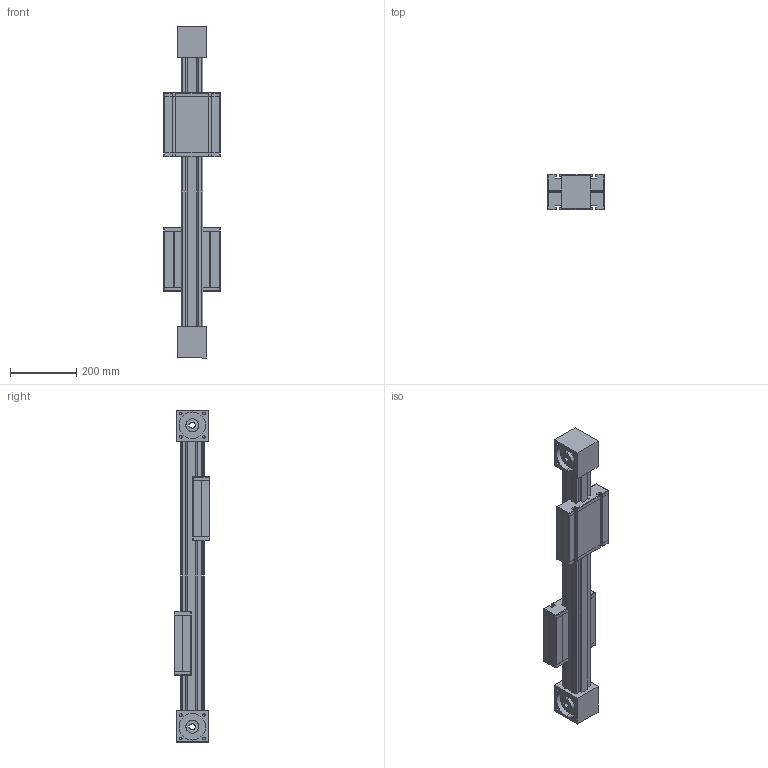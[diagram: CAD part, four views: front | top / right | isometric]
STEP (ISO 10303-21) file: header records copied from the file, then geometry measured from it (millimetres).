
FILE_DESCRIPTION (( 'STEP AP214' ), '1' );
FILE_NAME ('ELZG60S.STEP', '2022-07-21T09:37:12', ( '' ), ( '' ), 'SwSTEP 2.0', 'SolidWorks 2020', '' );
FILE_SCHEMA (( 'AUTOMOTIVE_DESIGN' ));
Length unit declared in the file: millimetre
Products named in the file (5): timing belt reverse unit^ELZG60S_coupling claw pos.2; profile^ELZG60S_4x guide rod; ELZG60S; carriage^ELZG60S_carriage version 0; timing belt reverse unit^ELZG60S_coupling claw pos.1
Assembly tree (5 placements, depth 2):
  ELZG60S
    profile^ELZG60S_4x guide rod
    timing belt reverse unit^ELZG60S_coupling claw pos.1
    timing belt reverse unit^ELZG60S_coupling claw pos.2
    carriage^ELZG60S_carriage version 0  x2
Bounding box: 170 x 108 x 1000 mm (x, y, z)
Volume: 6674644.9 mm3; surface area: 915913.7 mm2
Topology: 15 solids, 15 shells, 620 faces, 1662 edges, 1096 vertices
Faces by surface type: plane 342, cylinder 258, torus 16, cone 4
Entity records: 14708 total; most frequent: DIRECTION 2255, CARTESIAN_POINT 2222, ORIENTED_EDGE 2126, EDGE_CURVE 1063, AXIS2_PLACEMENT_3D 783, VERTEX_POINT 702, LINE 689, VECTOR 689
